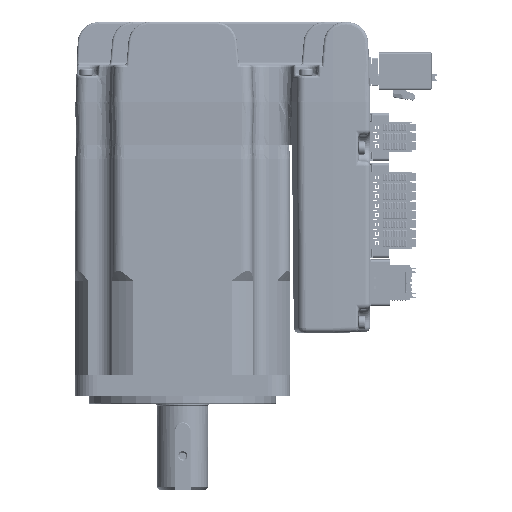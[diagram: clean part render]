
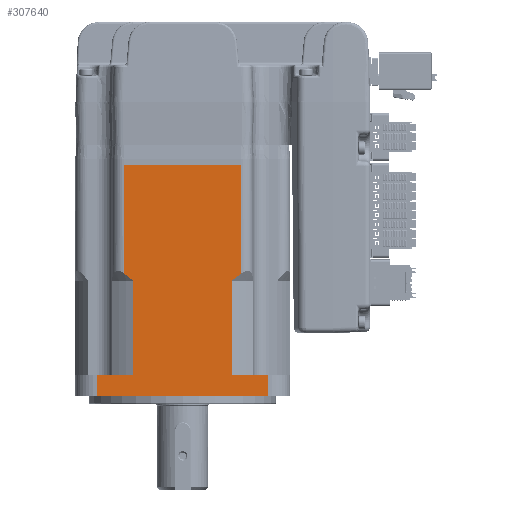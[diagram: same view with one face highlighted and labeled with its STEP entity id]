
A CAD part, left-side view. The second image highlights one B-rep face of the part: STEP entity #307640.
In plain terms, the highlighted planar face has unit normal (-1, 0, 0).
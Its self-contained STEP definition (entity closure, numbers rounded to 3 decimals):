
#298628=DIRECTION('',(0.,0.,1.));
#298629=VECTOR('',#298628,40.348);
#298630=CARTESIAN_POINT('',(1.941,20.191,
-57.448));
#298631=LINE('',#298630,#298629);
#298636=DIRECTION('',(0.,-1.,0.));
#298637=VECTOR('',#298636,13.67);
#298638=CARTESIAN_POINT('',(1.941,23.611,-95.1));
#298639=LINE('',#298638,#298637);
#298640=DIRECTION('',(0.,1.,0.));
#298641=VECTOR('',#298640,64.);
#298642=CARTESIAN_POINT('',(1.941,9.941,-103.1));
#298643=LINE('',#298642,#298641);
#298644=DIRECTION('',(0.,-1.,0.));
#298645=VECTOR('',#298644,13.67);
#298646=CARTESIAN_POINT('',(1.941,73.941,-95.1));
#298647=LINE('',#298646,#298645);
#298648=DIRECTION('',(0.,-1.,0.));
#298649=VECTOR('',#298648,43.5);
#298650=CARTESIAN_POINT('',(1.941,63.691,-17.1));
#298651=LINE('',#298650,#298649);
#298656=DIRECTION('',(0.,0.,1.));
#298657=VECTOR('',#298656,35.);
#298658=CARTESIAN_POINT('',(1.941,23.611,-95.1));
#298659=LINE('',#298658,#298657);
#298660=CARTESIAN_POINT('',(1.941,23.611,-60.1));
#298661=CARTESIAN_POINT('',(1.941,23.232,
-59.827));
#298662=CARTESIAN_POINT('',(1.941,22.473,
-59.265));
#298663=CARTESIAN_POINT('',(1.941,21.334,
-58.381));
#298664=CARTESIAN_POINT('',(1.941,20.573,
-57.764));
#298665=CARTESIAN_POINT('',(1.941,20.191,
-57.448));
#298704=DIRECTION('',(0.,0.,1.));
#298705=VECTOR('',#298704,8.);
#298706=CARTESIAN_POINT('',(1.941,9.941,-103.1));
#298707=LINE('',#298706,#298705);
#299164=DIRECTION('',(0.,0.,-1.));
#299165=VECTOR('',#299164,8.);
#299166=CARTESIAN_POINT('',(1.941,73.941,-95.1));
#299167=LINE('',#299166,#299165);
#299222=DIRECTION('',(0.,0.,-1.));
#299223=VECTOR('',#299222,35.);
#299224=CARTESIAN_POINT('',(1.941,60.272,-60.1));
#299225=LINE('',#299224,#299223);
#299237=CARTESIAN_POINT('',(1.941,63.691,
-57.448));
#299238=CARTESIAN_POINT('',(1.941,63.31,
-57.764));
#299239=CARTESIAN_POINT('',(1.941,62.548,
-58.381));
#299240=CARTESIAN_POINT('',(1.941,61.409,
-59.265));
#299241=CARTESIAN_POINT('',(1.941,60.65,
-59.827));
#299242=CARTESIAN_POINT('',(1.941,60.272,-60.1));
#299253=DIRECTION('',(0.,0.,-1.));
#299254=VECTOR('',#299253,40.348);
#299255=CARTESIAN_POINT('',(1.941,63.691,-17.1));
#299256=LINE('',#299255,#299254);
#301701=CARTESIAN_POINT('',(1.941,73.941,-103.1));
#301702=VERTEX_POINT('',#301701);
#301703=CARTESIAN_POINT('',(1.941,9.941,-103.1));
#301704=VERTEX_POINT('',#301703);
#301766=CARTESIAN_POINT('',(1.941,20.191,-17.1));
#301767=VERTEX_POINT('',#301766);
#301768=CARTESIAN_POINT('',(1.941,63.691,-17.1));
#301769=VERTEX_POINT('',#301768);
#301848=CARTESIAN_POINT('',(1.941,9.941,-95.1));
#301849=VERTEX_POINT('',#301848);
#301850=CARTESIAN_POINT('',(1.941,23.611,-95.1));
#301851=VERTEX_POINT('',#301850);
#301860=CARTESIAN_POINT('',(1.941,20.191,
-57.448));
#301861=VERTEX_POINT('',#301860);
#301862=CARTESIAN_POINT('',(1.941,23.611,-60.1));
#301863=VERTEX_POINT('',#301862);
#301864=CARTESIAN_POINT('',(1.941,73.941,-95.1));
#301865=VERTEX_POINT('',#301864);
#301866=CARTESIAN_POINT('',(1.941,60.272,-95.1));
#301867=VERTEX_POINT('',#301866);
#301868=CARTESIAN_POINT('',(1.941,60.272,-60.1));
#301869=VERTEX_POINT('',#301868);
#301870=VERTEX_POINT('',#299237);
#307613=CARTESIAN_POINT('',(1.941,81.941,-95.1));
#307614=DIRECTION('',(1.,0.,0.));
#307615=DIRECTION('',(0.,1.,0.));
#307616=AXIS2_PLACEMENT_3D('',#307613,#307614,#307615);
#307617=PLANE('',#307616);
#307619=ORIENTED_EDGE('',*,*,#307618,.F.);
#307620=ORIENTED_EDGE('',*,*,#307569,.T.);
#307622=ORIENTED_EDGE('',*,*,#307621,.F.);
#307623=ORIENTED_EDGE('',*,*,#307308,.T.);
#307625=ORIENTED_EDGE('',*,*,#307624,.F.);
#307627=ORIENTED_EDGE('',*,*,#307626,.T.);
#307629=ORIENTED_EDGE('',*,*,#307628,.F.);
#307631=ORIENTED_EDGE('',*,*,#307630,.F.);
#307633=ORIENTED_EDGE('',*,*,#307632,.F.);
#307634=ORIENTED_EDGE('',*,*,#307442,.T.);
#307635=ORIENTED_EDGE('',*,*,#307604,.F.);
#307637=ORIENTED_EDGE('',*,*,#307636,.F.);
#307638=EDGE_LOOP('',(#307619,#307620,#307622,#307623,#307625,#307627,#307629,
#307631,#307633,#307634,#307635,#307637));
#307639=FACE_OUTER_BOUND('',#307638,.F.);
#307640=ADVANCED_FACE('',(#307639),#307617,.F.);
#298666=B_SPLINE_CURVE_WITH_KNOTS('',3,(#298660,#298661,#298662,#298663,#298664,
#298665),.UNSPECIFIED.,.F.,.F.,(4,1,1,4),(0.,0.333,
0.667,1.),.UNSPECIFIED.);
#299243=B_SPLINE_CURVE_WITH_KNOTS('',3,(#299237,#299238,#299239,#299240,#299241,
#299242),.UNSPECIFIED.,.F.,.F.,(4,1,1,4),(0.,0.333,
0.667,1.),.UNSPECIFIED.);
#307308=EDGE_CURVE('',#301704,#301702,#298643,.T.);
#307442=EDGE_CURVE('',#301769,#301767,#298651,.T.);
#307569=EDGE_CURVE('',#301851,#301849,#298639,.T.);
#307604=EDGE_CURVE('',#301861,#301767,#298631,.T.);
#307618=EDGE_CURVE('',#301851,#301863,#298659,.T.);
#307621=EDGE_CURVE('',#301704,#301849,#298707,.T.);
#307624=EDGE_CURVE('',#301865,#301702,#299167,.T.);
#307626=EDGE_CURVE('',#301865,#301867,#298647,.T.);
#307628=EDGE_CURVE('',#301869,#301867,#299225,.T.);
#307630=EDGE_CURVE('',#301870,#301869,#299243,.T.);
#307632=EDGE_CURVE('',#301769,#301870,#299256,.T.);
#307636=EDGE_CURVE('',#301863,#301861,#298666,.T.);
